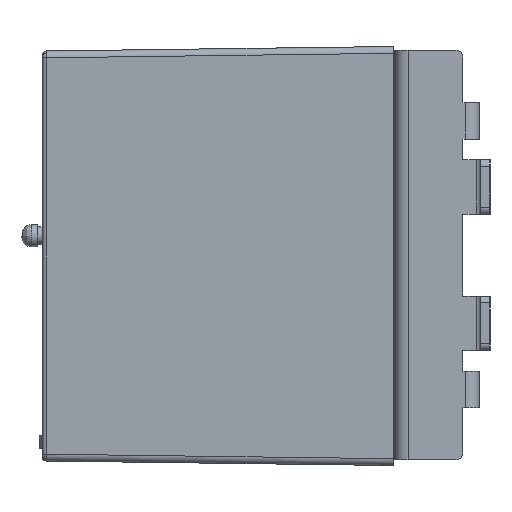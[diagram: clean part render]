
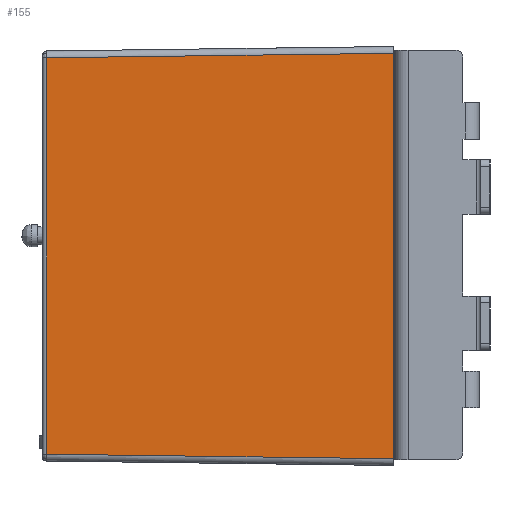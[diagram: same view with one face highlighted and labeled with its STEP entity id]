
A CAD part, left-side view. The second image highlights one B-rep face of the part: STEP entity #155.
In plain terms, the highlighted planar face has unit normal (-1, 0.013, 0).
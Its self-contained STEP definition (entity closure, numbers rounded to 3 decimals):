
#155 = ADVANCED_FACE ( 'NONE', ( #9912 ), #11256, .T. ) ;
#183 = LINE ( 'NONE', #17689, #14025 ) ;
#872 = VECTOR ( 'NONE', #10761, 1000. ) ;
#1050 = ORIENTED_EDGE ( 'NONE', *, *, #8380, .F. ) ;
#1554 = VERTEX_POINT ( 'NONE', #9039 ) ;
#2594 = CARTESIAN_POINT ( 'NONE',  ( -58.063, 76.213, 43.563 ) ) ;
#2632 = DIRECTION ( 'NONE',  ( -0.013, -1., 0. ) ) ;
#3693 = DIRECTION ( 'NONE',  ( 0., 0., -1. ) ) ;
#3875 = CARTESIAN_POINT ( 'NONE',  ( -59.04, 0.765, 0. ) ) ;
#4658 = VERTEX_POINT ( 'NONE', #8708 ) ;
#6556 = DIRECTION ( 'NONE',  ( 0., 0., 1. ) ) ;
#6971 = EDGE_CURVE ( 'NONE', #17516, #4658, #18423, .T. ) ;
#7018 = AXIS2_PLACEMENT_3D ( 'NONE', #3875, #16946, #2632 ) ;
#8112 = ORIENTED_EDGE ( 'NONE', *, *, #6971, .T. ) ;
#8218 = LINE ( 'NONE', #18410, #12042 ) ;
#8380 = EDGE_CURVE ( 'NONE', #17516, #1554, #17707, .T. ) ;
#8561 = EDGE_CURVE ( 'NONE', #4658, #18113, #183, .T. ) ;
#8708 = CARTESIAN_POINT ( 'NONE',  ( -58.063, 76.213, -43.563 ) ) ;
#9039 = CARTESIAN_POINT ( 'NONE',  ( -59.05, 0., 44.55 ) ) ;
#9912 = FACE_OUTER_BOUND ( 'NONE', #17508, .T. ) ;
#10761 = DIRECTION ( 'NONE',  ( -0.013, -1., 0.013 ) ) ;
#11256 = PLANE ( 'NONE',  #7018 ) ;
#12042 = VECTOR ( 'NONE', #6556, 1000. ) ;
#12043 = EDGE_CURVE ( 'NONE', #18113, #1554, #8218, .T. ) ;
#12112 = ORIENTED_EDGE ( 'NONE', *, *, #12043, .T. ) ;
#12171 = CARTESIAN_POINT ( 'NONE',  ( -59.033, 1.342, 44.533 ) ) ;
#12251 = ORIENTED_EDGE ( 'NONE', *, *, #8561, .T. ) ;
#12742 = VECTOR ( 'NONE', #3693, 1000. ) ;
#14025 = VECTOR ( 'NONE', #16411, 1000. ) ;
#14475 = CARTESIAN_POINT ( 'NONE',  ( -59.05, 0., -44.55 ) ) ;
#16411 = DIRECTION ( 'NONE',  ( -0.013, -1., -0.013 ) ) ;
#16946 = DIRECTION ( 'NONE',  ( -1., 0.013, 0. ) ) ;
#16948 = CARTESIAN_POINT ( 'NONE',  ( -58.063, 76.213, 0. ) ) ;
#17508 = EDGE_LOOP ( 'NONE', ( #8112, #12251, #12112, #1050 ) ) ;
#17516 = VERTEX_POINT ( 'NONE', #2594 ) ;
#17689 = CARTESIAN_POINT ( 'NONE',  ( -58.063, 76.213, -43.563 ) ) ;
#17707 = LINE ( 'NONE', #12171, #872 ) ;
#18113 = VERTEX_POINT ( 'NONE', #14475 ) ;
#18410 = CARTESIAN_POINT ( 'NONE',  ( -59.05, 0., 0. ) ) ;
#18423 = LINE ( 'NONE', #16948, #12742 ) ;
